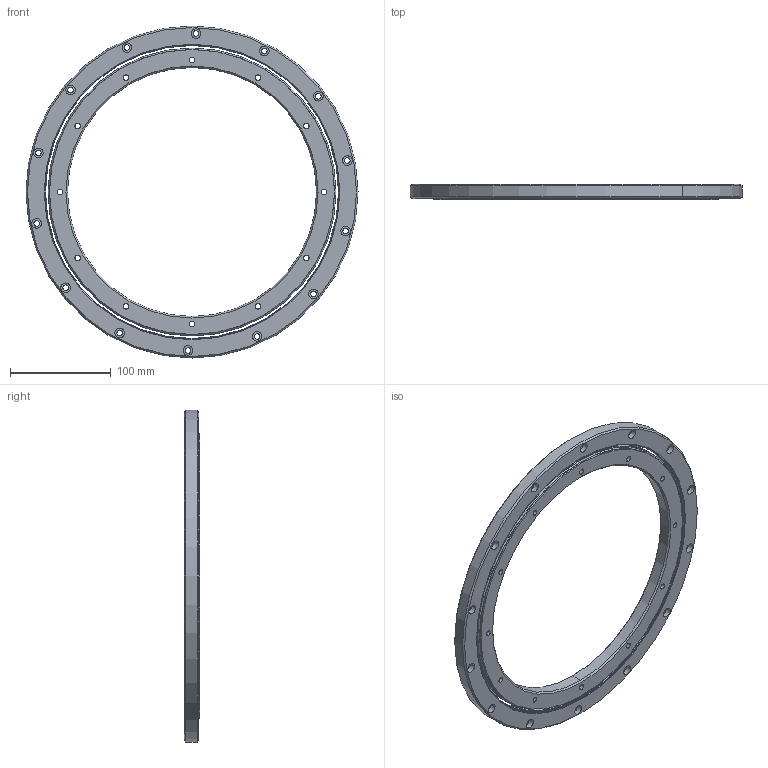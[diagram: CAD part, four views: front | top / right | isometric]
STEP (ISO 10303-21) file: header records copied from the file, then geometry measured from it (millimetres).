
FILE_DESCRIPTION (( 'STEP AP214' ), '1' );
FILE_NAME ('TTS2-248-332-15 Bearing Assembly.STEP', '2018-03-14T15:21:56', ( 'Admin' ), ( '' ), 'SwSTEP 2.0', 'SolidWorks 2018', '' );
FILE_SCHEMA (( 'AUTOMOTIVE_DESIGN' ));
Length unit declared in the file: inch
Products named in the file (3): TTS2 Outer Ring_TTS2-248-332-15; TTS2 Inner Ring_TTS2-248-332-15; TTS2-248-332-15 Bearing Assembly
Assembly tree (2 placements, depth 2):
  TTS2-248-332-15 Bearing Assembly
    TTS2 Inner Ring_TTS2-248-332-15
    TTS2 Outer Ring_TTS2-248-332-15
Bounding box: 330.2 x 15 x 330.2 mm (x, y, z)
Volume: 456647 mm3; surface area: 124894.1 mm2
Topology: 2 solids, 2 shells, 210 faces, 472 edges, 294 vertices
Faces by surface type: cylinder 128, plane 32, cone 28, torus 22
Entity records: 6192 total; most frequent: DIRECTION 1218, CARTESIAN_POINT 981, ORIENTED_EDGE 944, AXIS2_PLACEMENT_3D 531, EDGE_CURVE 472, CIRCLE 316, VERTEX_POINT 294, EDGE_LOOP 294
